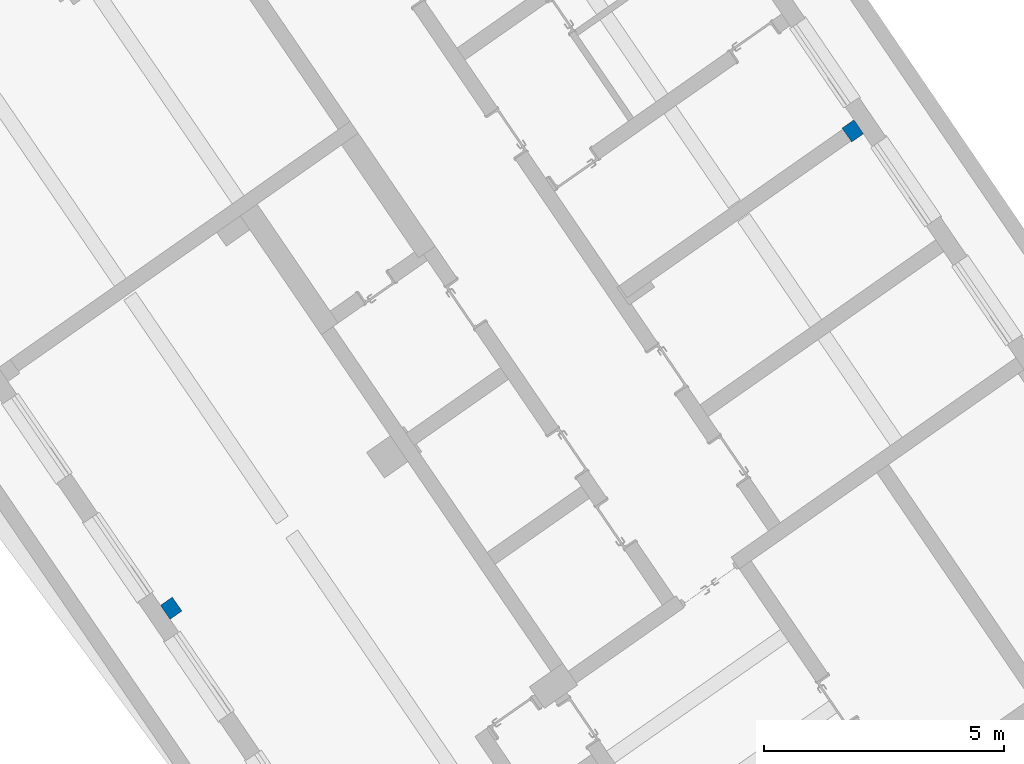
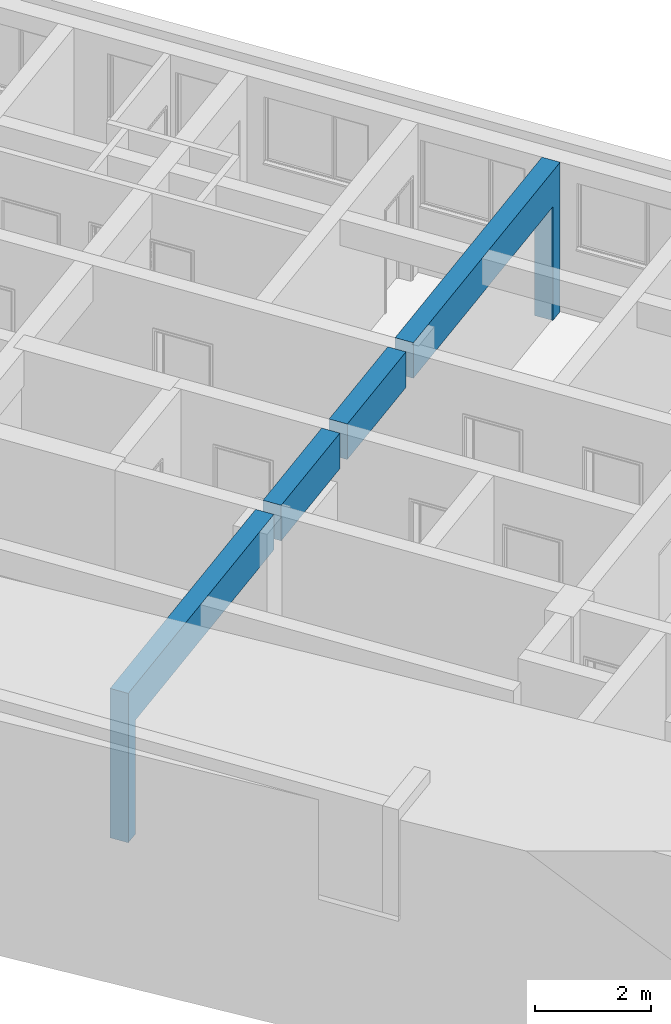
# One storey, part 105 of 112: 1 wall.
"""IFC2X3 building model written with IfcOpenShell, lengths in millimetres."""

from ifc_helpers import new_model, entity, si_unit, converted_unit, derived_unit, direction, frame, origin, place, context, subcontext, project, spatial, faceted_brep, material, layer, layer_set, type_object, element, save


model = new_model("IFC2X3")

# Units and contexts
model_context = context("Model", 3, precision=0.01, world=origin(), true_north=direction((6.123031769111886e-17, 1.0)))
body_context = subcontext(model_context, "Body", "Model", "MODEL_VIEW")
ifc_project = project(units=[si_unit("LENGTHUNIT", "METRE", prefix="MILLI"), si_unit("AREAUNIT", "SQUARE_METRE"), si_unit("VOLUMEUNIT", "CUBIC_METRE"), converted_unit("PLANEANGLEUNIT", "DEGREE", entity("IfcRatioMeasure", 0.017453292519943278), si_unit("PLANEANGLEUNIT", "RADIAN"), dimensions=[0, 0, 0, 0, 0, 0, 0]), si_unit("MASSUNIT", "GRAM", prefix="KILO"), derived_unit("MASSDENSITYUNIT", [(si_unit("MASSUNIT", "GRAM", prefix="KILO"), 1), (si_unit("LENGTHUNIT", "METRE"), -3)]), derived_unit("MOMENTOFINERTIAUNIT", [(si_unit("LENGTHUNIT", "METRE"), 4)]), si_unit("TIMEUNIT", "SECOND"), si_unit("FREQUENCYUNIT", "HERTZ"), si_unit("THERMODYNAMICTEMPERATUREUNIT", "DEGREE_CELSIUS"), derived_unit("THERMALTRANSMITTANCEUNIT", [(si_unit("MASSUNIT", "GRAM", prefix="KILO"), 1), (si_unit("THERMODYNAMICTEMPERATUREUNIT", "KELVIN"), -1), (si_unit("TIMEUNIT", "SECOND"), -3)]), derived_unit("THERMALCONDUCTANCEUNIT", [(si_unit("MASSUNIT", "GRAM", prefix="KILO"), 1), (si_unit("LENGTHUNIT", "METRE"), 1), (si_unit("THERMODYNAMICTEMPERATUREUNIT", "KELVIN"), -1), (si_unit("TIMEUNIT", "SECOND"), -3)]), derived_unit("VOLUMETRICFLOWRATEUNIT", [(si_unit("LENGTHUNIT", "METRE"), 3), (si_unit("TIMEUNIT", "SECOND"), -1)]), derived_unit("MASSFLOWRATEUNIT", [(si_unit("MASSUNIT", "GRAM", prefix="KILO"), 1), (si_unit("TIMEUNIT", "SECOND"), -1)]), derived_unit("ROTATIONALFREQUENCYUNIT", [(si_unit("TIMEUNIT", "SECOND"), -1)]), si_unit("ELECTRICCURRENTUNIT", "AMPERE"), si_unit("ELECTRICVOLTAGEUNIT", "VOLT"), si_unit("POWERUNIT", "WATT"), converted_unit("FORCEUNIT", "KIP", entity("IfcRatioMeasure", 2.088543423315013e-05), si_unit("FORCEUNIT", "NEWTON"), dimensions=[1, 1, -2, 0, 0, 0, 0]), si_unit("ILLUMINANCEUNIT", "LUX"), si_unit("LUMINOUSFLUXUNIT", "LUMEN"), si_unit("LUMINOUSINTENSITYUNIT", "CANDELA"), derived_unit("USERDEFINED", [(si_unit("MASSUNIT", "GRAM", prefix="KILO"), -1), (si_unit("LENGTHUNIT", "METRE"), -2), (si_unit("TIMEUNIT", "SECOND"), 3), (si_unit("LUMINOUSFLUXUNIT", "LUMEN"), 1)]), derived_unit("USERDEFINED", [(si_unit("MASSUNIT", "GRAM", prefix="KILO"), 1), (si_unit("LENGTHUNIT", "METRE"), 3), (si_unit("TIMEUNIT", "SECOND"), -3), (si_unit("ELECTRICCURRENTUNIT", "AMPERE"), -2)]), derived_unit("USERDEFINED", [(si_unit("LENGTHUNIT", "METRE"), 2), (si_unit("TIMEUNIT", "SECOND"), -2)]), derived_unit("SOUNDPOWERUNIT", [(si_unit("MASSUNIT", "GRAM", prefix="KILO"), 1), (si_unit("LENGTHUNIT", "METRE"), 2), (si_unit("TIMEUNIT", "SECOND"), -3)]), derived_unit("SOUNDPRESSUREUNIT", [(si_unit("MASSUNIT", "GRAM", prefix="KILO"), 1), (si_unit("LENGTHUNIT", "METRE"), -1), (si_unit("TIMEUNIT", "SECOND"), -2)]), derived_unit("LINEARVELOCITYUNIT", [(si_unit("LENGTHUNIT", "METRE"), 1), (si_unit("TIMEUNIT", "SECOND"), -1)]), si_unit("PRESSUREUNIT", "PASCAL"), derived_unit("USERDEFINED", [(si_unit("LENGTHUNIT", "METRE"), -2), (si_unit("MASSUNIT", "GRAM", prefix="KILO"), 1), (si_unit("TIMEUNIT", "SECOND"), -2)]), derived_unit("LINEARFORCEUNIT", [(si_unit("MASSUNIT", "GRAM", prefix="KILO"), 1), (si_unit("LENGTHUNIT", "METRE"), 1), (si_unit("TIMEUNIT", "SECOND"), -2), (si_unit("LENGTHUNIT", "METRE"), -1)]), derived_unit("PLANARFORCEUNIT", [(si_unit("MASSUNIT", "GRAM", prefix="KILO"), 1), (si_unit("LENGTHUNIT", "METRE"), 1), (si_unit("TIMEUNIT", "SECOND"), -2), (si_unit("LENGTHUNIT", "METRE"), -2)]), derived_unit("SPECIFICHEATCAPACITYUNIT", [(si_unit("LENGTHUNIT", "METRE"), 2), (si_unit("TIMEUNIT", "SECOND"), -2), (si_unit("THERMODYNAMICTEMPERATUREUNIT", "KELVIN"), -1)]), derived_unit("VAPORPERMEABILITYUNIT", [(si_unit("TIMEUNIT", "SECOND"), 1), (si_unit("LENGTHUNIT", "METRE"), -1)]), derived_unit("DYNAMICVISCOSITYUNIT", [(si_unit("MASSUNIT", "GRAM", prefix="KILO"), 1), (si_unit("LENGTHUNIT", "METRE"), -1), (si_unit("TIMEUNIT", "SECOND"), -1)]), derived_unit("THERMALEXPANSIONCOEFFICIENTUNIT", [(si_unit("THERMODYNAMICTEMPERATUREUNIT", "KELVIN"), -1)])], contexts=[model_context])

# Site, building, storey
site_placement = place(None, frame((0.0, 0.0, 0.0), z_axis=(0.0, 0.0, 1.0), x_axis=(0.8191520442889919, 0.5735764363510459, 0.0)))
site = spatial("IfcSite", under=ifc_project, at=site_placement, Name="Default", CompositionType="ELEMENT")
building_placement = place(site_placement, origin())
building = spatial("IfcBuilding", under=site, at=building_placement, CompositionType="ELEMENT")
storey_placement = place(building_placement, frame((0.0, 0.0, -3600.0)))
storey = spatial("IfcBuildingStorey", under=building, at=storey_placement, Name="0.UG -3.60", CompositionType="ELEMENT", Elevation=-3600.0000000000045)

# Wall
ifc_material = material(Name="Analytical Wall Surface_CJC")
ifc_layer = layer(ifc_material, 350.0)
ifc_layer_set = layer_set([ifc_layer], Name="Basic Wall:Wand_Innen_35")
wall_type = type_object("IfcWallType", Name="Basic Wall:Wand_Innen_35", PredefinedType="STANDARD", material=ifc_layer_set)
wall_placement = place(storey_placement, frame((-205709.49276695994, 67396.35891435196, 300.0), z_axis=(0.0, 0.0, 1.0), x_axis=(-1.0, 0.0, 0.0)))
element("IfcWall", 1, at=wall_placement, inside=storey, type_object=wall_type, Name="Basic Wall:Wand_Innen_35", ObjectType="Basic Wall:Wand_Innen_35", context=body_context, shape_type="Brep", body=[
    faceted_brep([(0.0, -175.0, 0.0), (302.21026902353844, -175.0, 0.0), (302.21026902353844, -175.0, 2400.0), (6000.471925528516, -175.0, 2400.0), (6000.471925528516, -175.0, 3150.0), (3200.245038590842, -175.0, 3150.0), (2900.2207292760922, -175.0, 3150.0), (0.0, -175.0, 3150.0), (4.4557319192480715, 175.0, 0.0), (302.21026902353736, 175.0, 0.0), (302.2102690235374, 150.0, 0.0), (302.21026902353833, -150.0, 0.0), (302.21026902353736, 175.0, 2400.0), (302.2102690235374, 150.0, 2400.0), (302.21026902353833, -150.0, 2400.0), (4.4557319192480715, 175.0, 3150.0), (6004.927642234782, 175.0, 2400.0), (6004.927642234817, 175.0, 3150.0), (5406.470351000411, 175.0, 2400.0), (5406.470351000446, 175.0, 3150.0), (3204.700755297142, 175.0, 3150.0), (2904.6764459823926, 175.0, 3150.0)], [[[0, 1, 2, 3, 4, 5, 6, 7]], [[1, 0, 8, 9, 10, 11]], [[2, 1, 11, 10, 9, 12, 13, 14]], [[0, 7, 15, 8]], [[4, 3, 16, 17]], [[2, 14, 13, 12, 18, 16, 3]], [[15, 7, 6, 5, 4, 17, 19, 20, 21]], [[9, 8, 15, 21, 20, 19, 17, 16, 18, 12]]]),
    faceted_brep([(17353.631640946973, 175.0, 0.0), (17353.631640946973, 175.0, 2400.0), (12303.178199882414, 175.0, 2400.0), (11705.389519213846, 175.0, 2400.0), (11705.389519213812, 175.0, 3150.0), (12303.178199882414, 175.0, 3150.0), (14405.608303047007, 175.0, 3150.0), (14705.632612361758, 175.0, 3150.0), (17655.822345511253, 175.0, 3150.0), (17655.822345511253, 175.0, 0.0), (17651.36662880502, -175.0, 3150.0), (11700.93380250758, -175.0, 3150.0), (12303.178199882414, -175.0, 3150.0), (14401.152586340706, -175.0, 3150.0), (14701.176895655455, -175.0, 3150.0), (17353.631640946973, -175.0, 0.0), (17353.631640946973, -175.0, 2400.0), (17651.36662880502, -175.0, 0.0), (11700.93380250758, -175.0, 2400.0), (12303.178199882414, -175.0, 2400.0)], [[[0, 1, 2, 3, 4, 5, 6, 7, 8, 9]], [[10, 8, 7, 6, 5, 4, 11, 12, 13, 14]], [[15, 16, 1, 0]], [[17, 15, 0, 9]], [[10, 17, 9, 8]], [[18, 11, 4, 3]], [[1, 16, 19, 18, 3, 2]], [[16, 15, 17, 10, 14, 13, 12, 11, 18, 19]]]),
    faceted_brep([(6300.496234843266, -175.0, 2400.0), (6304.951951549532, 175.0, 2400.0), (8705.14642606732, 175.0, 2400.0), (8700.69070936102, -175.0, 2400.0), (6300.496234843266, -175.0, 3150.0), (6304.951951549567, 175.0, 3150.0), (8700.690709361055, -175.0, 3150.0), (8705.14642606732, 175.0, 3150.0)], [[[0, 1, 2, 3]], [[0, 4, 5, 1]], [[6, 3, 2, 7]], [[5, 4, 6, 7]], [[1, 5, 7, 2]], [[4, 0, 3, 6]]]),
    faceted_brep([(11400.909493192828, -175.0, 3150.0), (11400.909493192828, -175.0, 2400.0), (11405.365209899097, 175.0, 2400.0), (11405.365209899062, 175.0, 3150.0), (9000.715018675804, -175.0, 2400.0), (9000.71501867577, -175.0, 3150.0), (9005.170735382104, 175.0, 3150.0), (9005.17073538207, 175.0, 2400.0), (11353.17819988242, -175.0, 2400.0), (11353.17819988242, 175.0, 2400.0), (11353.17819988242, 175.0, 3150.0), (11353.17819988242, -175.0, 3150.0)], [[[0, 1, 2, 3]], [[4, 5, 6, 7]], [[2, 1, 8, 4, 7, 9]], [[0, 3, 10, 6, 5, 11]], [[3, 2, 9, 7, 6, 10]], [[1, 0, 11, 5, 4, 8]]]),
])

save(model, "model.ifc")
